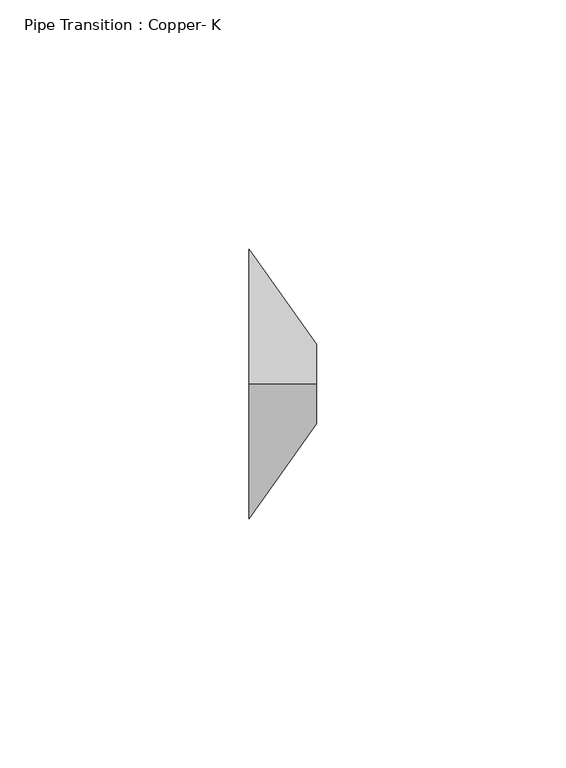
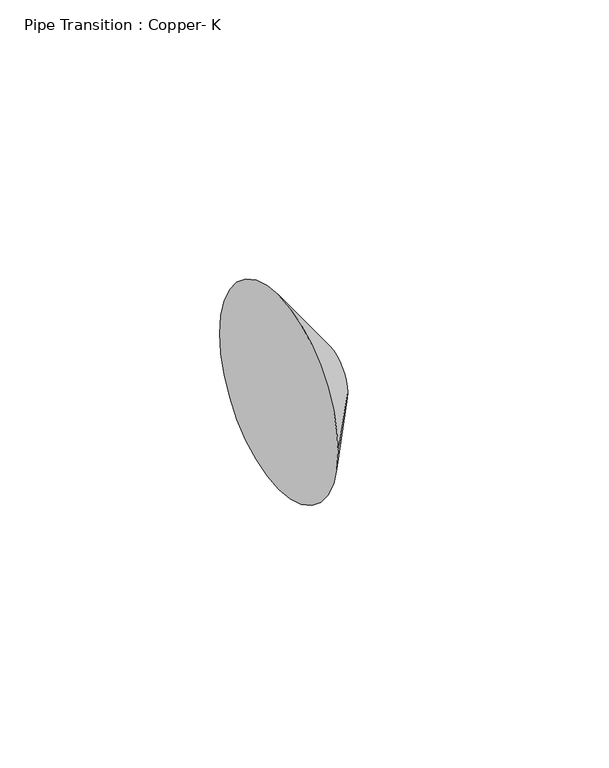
"""IFC4 building model written with IfcOpenShell, lengths in millimetres: pipe fitting geometry, Pipe Transition : Copper- K."""

from ifc_helpers import new_model, si_unit, frame, origin, place, context, project, spatial, polyline, circle_curve, source, transform, mapped, element, save
from ifc_brep_helpers import plane_surface, revolved_surface, advanced_brep


def pipe_transition_copper_k_e8f139fb(model_context):
    return source(origin(), model_context, "Body", "AdvancedBrep", [
        advanced_brep(
        [(13.49375, 0.0, 7.9375), (13.49375, -7.9375, 0.0), (13.49375, 0.0, -7.9375), (13.49375, 7.9375, 0.0), (0.0, 0.0, 26.9875), (0.0, 26.9875, 0.0), (0.0, 0.0, -26.9875), (0.0, -26.9875, 0.0)],
        [
            (0, 1, circle_curve(frame((13.49375, 0.0, 0.0), z_axis=(1.0, 0.0, 0.0), x_axis=(0.0, -1.0, 0.0)), 7.9375)),
            (1, 2, circle_curve(frame((13.49375, 0.0, 0.0), z_axis=(1.0, 0.0, 0.0), x_axis=(0.0, 0.0, -1.0)), 7.9375)),
            (2, 3, circle_curve(frame((13.49375, 0.0, 0.0), z_axis=(1.0, 0.0, 0.0), x_axis=(0.0, 1.0, 0.0)), 7.9375)),
            (3, 0, circle_curve(frame((13.49375, 0.0, 0.0), z_axis=(1.0, 0.0, 0.0), x_axis=(0.0, 0.0, 1.0)), 7.9375)),
            (4, 5, circle_curve(frame((0.0, 0.0, 0.0), z_axis=(-1.0, 0.0, 0.0), x_axis=(0.0, 0.0, 1.0)), 26.9875)),
            (5, 6, circle_curve(frame((0.0, 0.0, 0.0), z_axis=(-1.0, 0.0, 0.0), x_axis=(0.0, 1.0, 0.0)), 26.9875)),
            (6, 7, circle_curve(frame((0.0, 0.0, 0.0), z_axis=(-1.0, 0.0, 0.0), x_axis=(0.0, 0.0, -1.0)), 26.9875)),
            (7, 4, circle_curve(frame((0.0, 0.0, 0.0), z_axis=(-1.0, 0.0, 0.0), x_axis=(0.0, -1.0, 0.0)), 26.9875)),
            (4, 0),
            (3, 5),
            (2, 6),
            (1, 7),
        ],
        [
            plane_surface(frame((13.49375, 0.0, 0.0), z_axis=(1.0, 0.0, 0.0), x_axis=(0.0, 1.0, 0.0))),
            plane_surface(frame((0.0, 0.0, 0.0), z_axis=(-1.0, 0.0, 0.0), x_axis=(0.0, 1.0, 0.0))),
            revolved_surface(polyline([(13.49375, 0.0, 7.937499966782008), (0.0, 0.0, 26.9875)]), (19.1161458, 0.0, 0.0), (-1.0, 0.0, 0.0)),
            revolved_surface(polyline([(13.49375, 7.937499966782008, 0.0), (0.0, 26.9875, 0.0)]), (19.1161458, 0.0, 0.0), (-1.0, 0.0, 0.0)),
            revolved_surface(polyline([(13.49375, 0.0, -7.937499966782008), (0.0, 0.0, -26.9875)]), (19.1161458, 0.0, 0.0), (-1.0, 0.0, 0.0)),
            revolved_surface(polyline([(13.49375, -7.937499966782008, 0.0), (0.0, -26.9875, 0.0)]), (19.1161458, 0.0, 0.0), (-1.0, 0.0, 0.0)),
        ],
        [
            (0, [[1, 2, 3, 4]]),
            (1, [[5, 6, 7, 8]]),
            (2, [[9, -4, 10, -5]]),
            (3, [[-10, -3, 11, -6]]),
            (4, [[-11, -2, 12, -7]]),
            (5, [[-12, -1, -9, -8]]),
        ],
    ),
        advanced_brep(
        [(13.49375, 0.0, 7.9375), (13.49375, -7.9375, 0.0), (13.49375, 0.0, -7.9375), (13.49375, 7.9375, 0.0), (0.0, 0.0, 26.9875), (0.0, 26.9875, 0.0), (0.0, 0.0, -26.9875), (0.0, -26.9875, 0.0)],
        [
            (0, 1, circle_curve(frame((13.49375, 0.0, 0.0), z_axis=(1.0, 0.0, 0.0), x_axis=(0.0, -1.0, 0.0)), 7.9375)),
            (1, 2, circle_curve(frame((13.49375, 0.0, 0.0), z_axis=(1.0, 0.0, 0.0), x_axis=(0.0, 0.0, -1.0)), 7.9375)),
            (2, 3, circle_curve(frame((13.49375, 0.0, 0.0), z_axis=(1.0, 0.0, 0.0), x_axis=(0.0, 1.0, 0.0)), 7.9375)),
            (3, 0, circle_curve(frame((13.49375, 0.0, 0.0), z_axis=(1.0, 0.0, 0.0), x_axis=(0.0, 0.0, 1.0)), 7.9375)),
            (4, 5, circle_curve(frame((0.0, 0.0, 0.0), z_axis=(-1.0, 0.0, 0.0), x_axis=(0.0, 0.0, 1.0)), 26.9875)),
            (5, 6, circle_curve(frame((0.0, 0.0, 0.0), z_axis=(-1.0, 0.0, 0.0), x_axis=(0.0, 1.0, 0.0)), 26.9875)),
            (6, 7, circle_curve(frame((0.0, 0.0, 0.0), z_axis=(-1.0, 0.0, 0.0), x_axis=(0.0, 0.0, -1.0)), 26.9875)),
            (7, 4, circle_curve(frame((0.0, 0.0, 0.0), z_axis=(-1.0, 0.0, 0.0), x_axis=(0.0, -1.0, 0.0)), 26.9875)),
            (4, 0),
            (3, 5),
            (2, 6),
            (1, 7),
        ],
        [
            plane_surface(frame((13.49375, 0.0, 0.0), z_axis=(1.0, 0.0, 0.0), x_axis=(0.0, 1.0, 0.0))),
            plane_surface(frame((0.0, 0.0, 0.0), z_axis=(-1.0, 0.0, 0.0), x_axis=(0.0, 1.0, 0.0))),
            revolved_surface(polyline([(13.49375, 0.0, 7.937499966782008), (0.0, 0.0, 26.9875)]), (19.1161458, 0.0, 0.0), (-1.0, 0.0, 0.0)),
            revolved_surface(polyline([(13.49375, 7.937499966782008, 0.0), (0.0, 26.9875, 0.0)]), (19.1161458, 0.0, 0.0), (-1.0, 0.0, 0.0)),
            revolved_surface(polyline([(13.49375, 0.0, -7.937499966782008), (0.0, 0.0, -26.9875)]), (19.1161458, 0.0, 0.0), (-1.0, 0.0, 0.0)),
            revolved_surface(polyline([(13.49375, -7.937499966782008, 0.0), (0.0, -26.9875, 0.0)]), (19.1161458, 0.0, 0.0), (-1.0, 0.0, 0.0)),
        ],
        [
            (0, [[1, 2, 3, 4]]),
            (1, [[5, 6, 7, 8]]),
            (2, [[9, -4, 10, -5]]),
            (3, [[-10, -3, 11, -6]]),
            (4, [[-11, -2, 12, -7]]),
            (5, [[-12, -1, -9, -8]]),
        ],
    ),
    ])


if __name__ == "__main__":
    model = new_model("IFC4")
    model_context = context("Model", 3, world=origin())
    ifc_project = project(units=[si_unit("LENGTHUNIT", "METRE", prefix="MILLI")], contexts=[model_context])
    site = spatial("IfcSite", under=ifc_project)
    building = spatial("IfcBuilding", under=site)
    placement = place(None, origin())
    pipe_transition_copper_k_shape = pipe_transition_copper_k_e8f139fb(model_context)
    element("IfcPipeFitting", 1, ObjectType="Pipe Transition : Copper- K", at=placement, inside=building, context=model_context, shape_type="MappedRepresentation", body=[
        mapped(pipe_transition_copper_k_shape, transform((0.0, 0.0, 0.0), x_axis=(1.0, 0.0, 0.0), y_axis=(0.0, 1.0, 0.0), z_axis=(0.0, 0.0, 1.0))),
    ])
    save(model, "model.ifc")
